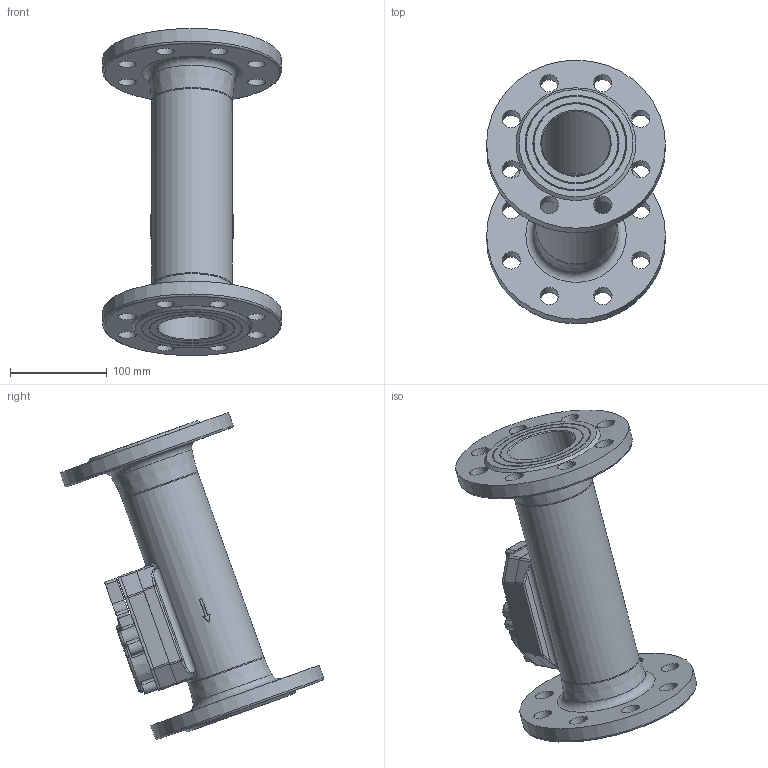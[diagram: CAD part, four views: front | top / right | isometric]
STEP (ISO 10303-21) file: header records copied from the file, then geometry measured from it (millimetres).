
FILE_DESCRIPTION( ( 'Unknown' ), '1' );
FILE_NAME( 'H:/440 pour vente_mai_2013/step_2/DN65_PN16-25_inox et fonte_rempli.stp', 'Unknown', ( 'Unknown' ), ( 'Unknown' ), 'PSStep 15.0.49', 'Unknown', ' ' );
FILE_SCHEMA( ( 'AUTOMOTIVE_DESIGN { 1 0 10303 214 1 1 1 1 }' ) );
Length unit declared in the file: millimetre
Products named in the file (5): Assem1; 0440P011_rempli; 0440P012_rempli; 0440P060_rempli; 0440P402_rempli
Assembly tree (4 placements, depth 2):
  Assem1
    0440P011_rempli
    0440P012_rempli
    0440P060_rempli
    0440P402_rempli
Bounding box: 185.08 x 272.76 x 338.6 mm (x, y, z)
Volume: 1538492.7 mm3; surface area: 320975 mm2
Topology: 4 solids, 10 shells, 342 faces, 843 edges, 511 vertices
Faces by surface type: cylinder 100, plane 88, cone 64, torus 47, bspline 43
Full cylindrical faces by diameter (mm): 2.2 x1, 2.459 x2, 2.5 x1, 3.242 x4, 4.1 x1, 5 x1, 5.03 x1, 6.2 x6, 6.917 x2, 10.2 x2, 19 x16, 70 x1, 71 x2, 83 x1, 185 x2
Entity records: 18359 total; most frequent: CARTESIAN_POINT 8120, DIRECTION 1571, ORIENTED_EDGE 1414, EDGE_CURVE 707, AXIS2_PLACEMENT_3D 676, EDGE_LOOP 482, VERTEX_POINT 482, FACE_OUTER_BOUND 395
